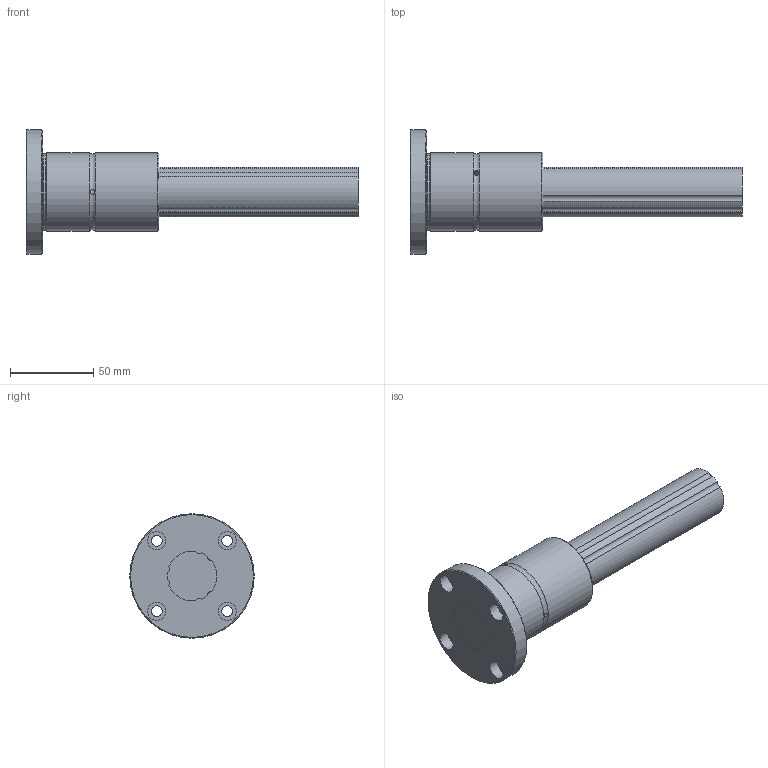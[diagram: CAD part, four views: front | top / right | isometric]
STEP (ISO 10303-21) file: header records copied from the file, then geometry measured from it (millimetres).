
FILE_DESCRIPTION(/* description */ ('STEP AP214'),/* implementation_level */ '2;1');
FILE_NAME(/* name */ 'LF301200(00)',/* time_stamp */ '2024-09-05T14:35:43+02:00',/* author */ ('License CC BY-ND 4.0'),/* organization */ ('CADENAS'),/* preprocessor_version */ 'ST-DEVELOPER v19.3',/* originating_system */ 'PARTsolutions',/* authorisation */ ' ');
FILE_SCHEMA (('AUTOMOTIVE_DESIGN {1 0 10303 214 3 1 1}'));
Length unit declared in the file: millimetre
Products named in the file (3): LF301200(00); LF 30200 FTLFShaft; LF 30 FTLF Cylindar
Assembly tree (2 placements, depth 2):
  LF301200(00)
    LF 30200 FTLFShaft
    LF 30 FTLF Cylindar
Bounding box: 200 x 75 x 75 mm (x, y, z)
Volume: 245301 mm3; surface area: 49634.5 mm2
Topology: 2 solids, 2 shells, 54 faces, 134 edges, 89 vertices
Faces by surface type: cylinder 39, plane 9, torus 4, cone 2
Full cylindrical faces by diameter (mm): 3 x3, 6.6 x4, 11 x4, 46.4 x1, 47 x2, 75 x1
Entity records: 1640 total; most frequent: CARTESIAN_POINT 312, DIRECTION 290, ORIENTED_EDGE 212, AXIS2_PLACEMENT_3D 133, EDGE_CURVE 106, EDGE_LOOP 96, FACE_BOUND 96, VERTEX_POINT 82
